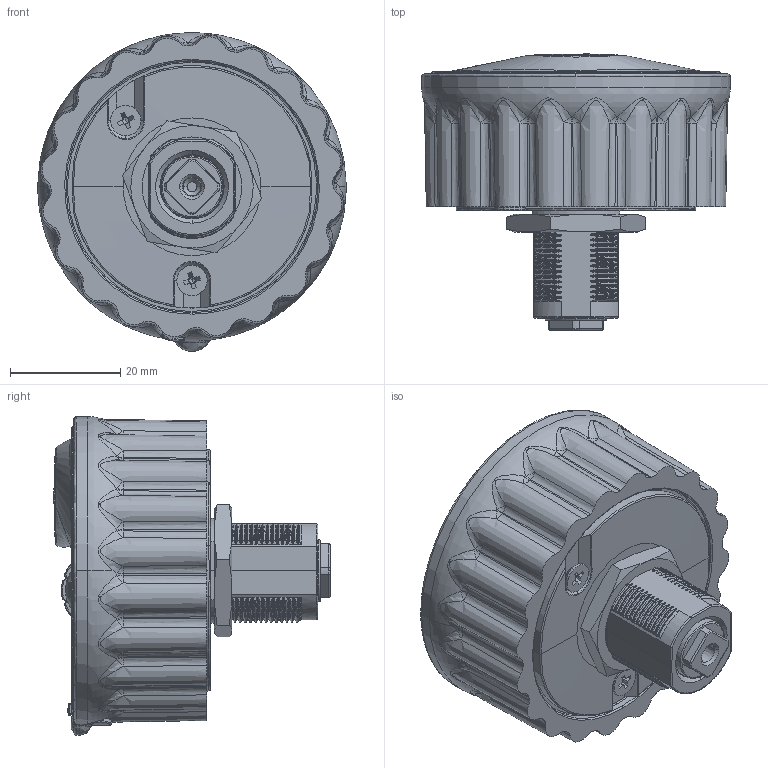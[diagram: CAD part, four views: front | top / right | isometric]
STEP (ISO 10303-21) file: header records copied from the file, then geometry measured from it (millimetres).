
FILE_DESCRIPTION (( 'STEP AP214' ), '1' );
FILE_NAME ('2800 + 9525001.STEP', '2020-10-09T07:54:06', ( '' ), ( '' ), 'SwSTEP 2.0', 'SolidWorks 2020', '' );
FILE_SCHEMA (( 'AUTOMOTIVE_DESIGN' ));
Length unit declared in the file: millimetre
Products named in the file (1): 2800 + 9525001
Bounding box: 56 x 50.13 x 57.89 mm (x, y, z)
Volume: 58905.3 mm3; surface area: 29372.9 mm2
Topology: 16 solids, 16 shells, 2662 faces, 6704 edges, 4003 vertices
Faces by surface type: bspline 1308, plane 655, cylinder 481, cone 212, torus 6
Entity records: 184681 total; most frequent: CARTESIAN_POINT 104133, ORIENTED_EDGE 13054, DIRECTION 7139, EDGE_CURVE 6527, VERTEX_POINT 4003, EDGE_LOOP 2798, UNCERTAINTY_MEASURE_WITH_UNIT 2680, PRESENTATION_STYLE_ASSIGNMENT 2679
